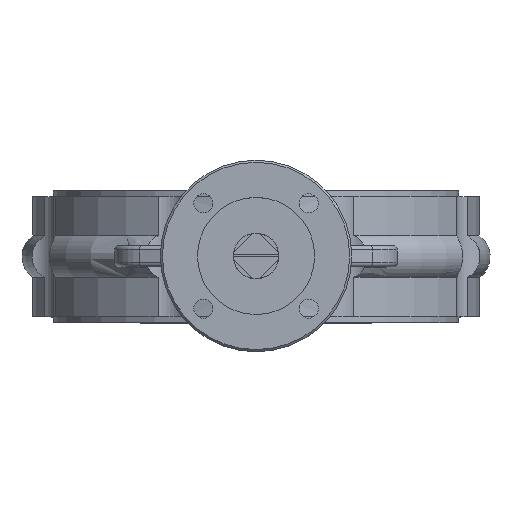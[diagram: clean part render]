
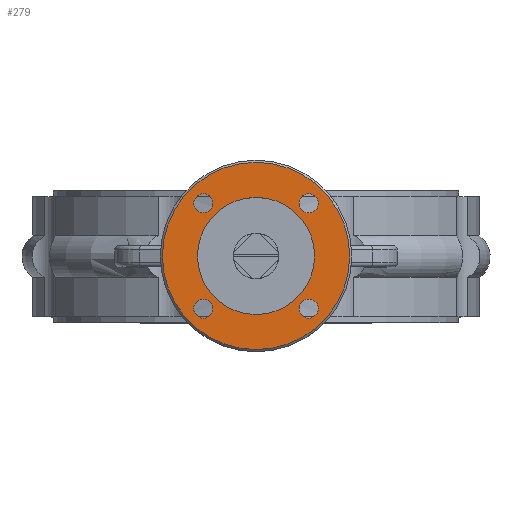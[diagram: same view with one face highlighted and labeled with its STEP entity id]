
A CAD part, top view. The second image highlights one B-rep face of the part: STEP entity #279.
In plain terms, the highlighted planar face has unit normal (0, 0, 1).
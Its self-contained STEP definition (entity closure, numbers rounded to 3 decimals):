
#279 = ADVANCED_FACE( '', ( #748, #749, #750, #751, #752, #753 ), #754, .T. );
#748 = FACE_OUTER_BOUND( '', #1597, .T. );
#749 = FACE_BOUND( '', #1598, .T. );
#750 = FACE_BOUND( '', #1599, .T. );
#751 = FACE_BOUND( '', #1600, .T. );
#752 = FACE_BOUND( '', #1601, .T. );
#753 = FACE_BOUND( '', #1602, .T. );
#754 = PLANE( '', #1603 );
#1597 = EDGE_LOOP( '', ( #4030 ) );
#1598 = EDGE_LOOP( '', ( #4031 ) );
#1599 = EDGE_LOOP( '', ( #4032 ) );
#1600 = EDGE_LOOP( '', ( #4033 ) );
#1601 = EDGE_LOOP( '', ( #4034 ) );
#1602 = EDGE_LOOP( '', ( #4035 ) );
#1603 = AXIS2_PLACEMENT_3D( '', #4036, #4037, #4038 );
#4030 = ORIENTED_EDGE( '', *, *, #5937, .T. );
#4031 = ORIENTED_EDGE( '', *, *, #5938, .T. );
#4032 = ORIENTED_EDGE( '', *, *, #5939, .T. );
#4033 = ORIENTED_EDGE( '', *, *, #5940, .T. );
#4034 = ORIENTED_EDGE( '', *, *, #5941, .T. );
#4035 = ORIENTED_EDGE( '', *, *, #5942, .T. );
#4036 = CARTESIAN_POINT( '', ( 0., 31., 209. ) );
#4037 = DIRECTION( '', ( 0., 0., 1. ) );
#4038 = DIRECTION( '', ( 1., 0., 0. ) );
#5937 = EDGE_CURVE( '', #6850, #6850, #6851, .T. );
#5938 = EDGE_CURVE( '', #6852, #6852, #6853, .T. );
#5939 = EDGE_CURVE( '', #6854, #6854, #6855, .T. );
#5940 = EDGE_CURVE( '', #6856, #6856, #6857, .T. );
#5941 = EDGE_CURVE( '', #6858, #6858, #6859, .T. );
#5942 = EDGE_CURVE( '', #6860, #6860, #6861, .T. );
#6850 = VERTEX_POINT( '', #8399 );
#6851 = CIRCLE( '', #8400, 44. );
#6852 = VERTEX_POINT( '', #8401 );
#6853 = CIRCLE( '', #8402, 27.5 );
#6854 = VERTEX_POINT( '', #8403 );
#6855 = CIRCLE( '', #8404, 4.5 );
#6856 = VERTEX_POINT( '', #8405 );
#6857 = CIRCLE( '', #8406, 4.5 );
#6858 = VERTEX_POINT( '', #8407 );
#6859 = CIRCLE( '', #8408, 4.5 );
#6860 = VERTEX_POINT( '', #8409 );
#6861 = CIRCLE( '', #8410, 4.5 );
#8399 = CARTESIAN_POINT( '', ( 44., 31., 209. ) );
#8400 = AXIS2_PLACEMENT_3D( '', #11725, #11726, #11727 );
#8401 = CARTESIAN_POINT( '', ( -27.5, 31., 209. ) );
#8402 = AXIS2_PLACEMENT_3D( '', #11728, #11729, #11730 );
#8403 = CARTESIAN_POINT( '', ( 29.249, 55.749, 209. ) );
#8404 = AXIS2_PLACEMENT_3D( '', #11731, #11732, #11733 );
#8405 = CARTESIAN_POINT( '', ( -20.249, 55.749, 209. ) );
#8406 = AXIS2_PLACEMENT_3D( '', #11734, #11735, #11736 );
#8407 = CARTESIAN_POINT( '', ( -20.249, 6.251, 209. ) );
#8408 = AXIS2_PLACEMENT_3D( '', #11737, #11738, #11739 );
#8409 = CARTESIAN_POINT( '', ( 29.249, 6.251, 209. ) );
#8410 = AXIS2_PLACEMENT_3D( '', #11740, #11741, #11742 );
#11725 = CARTESIAN_POINT( '', ( 0., 31., 209. ) );
#11726 = DIRECTION( '', ( 0., 0., 1. ) );
#11727 = DIRECTION( '', ( 1., 0., 0. ) );
#11728 = CARTESIAN_POINT( '', ( 0., 31., 209. ) );
#11729 = DIRECTION( '', ( 0., 0., -1. ) );
#11730 = DIRECTION( '', ( -1., 0., 0. ) );
#11731 = CARTESIAN_POINT( '', ( 24.749, 55.749, 209. ) );
#11732 = DIRECTION( '', ( 0., 0., -1. ) );
#11733 = DIRECTION( '', ( 1., 0., 0. ) );
#11734 = CARTESIAN_POINT( '', ( -24.749, 55.749, 209. ) );
#11735 = DIRECTION( '', ( 0., 0., -1. ) );
#11736 = DIRECTION( '', ( 1., 0., 0. ) );
#11737 = CARTESIAN_POINT( '', ( -24.749, 6.251, 209. ) );
#11738 = DIRECTION( '', ( 0., 0., -1. ) );
#11739 = DIRECTION( '', ( 1., 0., 0. ) );
#11740 = CARTESIAN_POINT( '', ( 24.749, 6.251, 209. ) );
#11741 = DIRECTION( '', ( 0., 0., -1. ) );
#11742 = DIRECTION( '', ( 1., 0., 0. ) );
